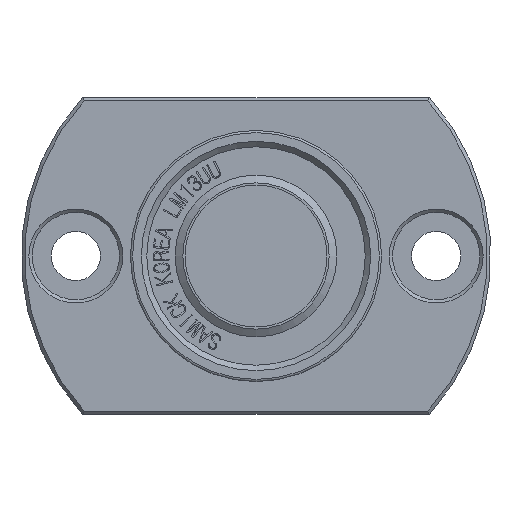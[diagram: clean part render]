
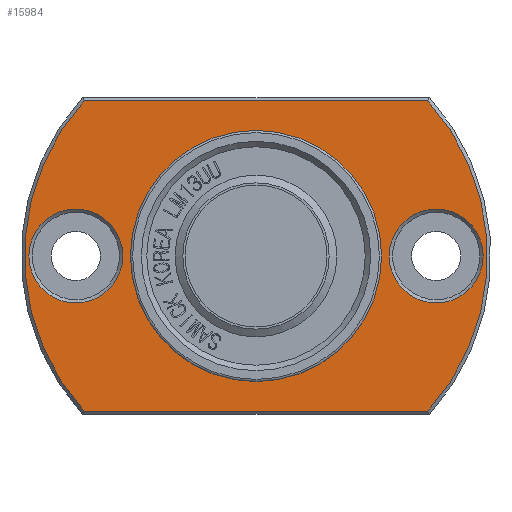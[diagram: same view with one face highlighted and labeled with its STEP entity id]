
A CAD part, front view. The second image highlights one B-rep face of the part: STEP entity #15984.
In plain terms, the highlighted planar face has unit normal (0, -1, 0).
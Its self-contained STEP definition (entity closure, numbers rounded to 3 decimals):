
#2657=FACE_BOUND('',#3805,.T.);
#2658=FACE_BOUND('',#3806,.T.);
#2659=FACE_BOUND('',#3807,.T.);
#2713=PLANE('',#16867);
#2944=FACE_OUTER_BOUND('',#3804,.T.);
#3804=EDGE_LOOP('',(#11124,#11125,#11126,#11127));
#3805=EDGE_LOOP('',(#11128));
#3806=EDGE_LOOP('',(#11129,#11130));
#3807=EDGE_LOOP('',(#11131));
#4720=LINE('',#18987,#5864);
#4721=LINE('',#18991,#5865);
#5864=VECTOR('',#17198,10.);
#5865=VECTOR('',#17201,10.);
#7007=CIRCLE('',#16864,4.3);
#7010=CIRCLE('',#16868,21.2);
#7011=CIRCLE('',#16869,21.2);
#7012=CIRCLE('',#16870,4.3);
#7013=CIRCLE('',#16871,11.5);
#7014=CIRCLE('',#16872,11.5);
#7073=VERTEX_POINT('',#18977);
#7076=VERTEX_POINT('',#18985);
#7077=VERTEX_POINT('',#18986);
#7078=VERTEX_POINT('',#18988);
#7079=VERTEX_POINT('',#18990);
#7080=VERTEX_POINT('',#18993);
#7081=VERTEX_POINT('',#18995);
#7082=VERTEX_POINT('',#18996);
#8693=EDGE_CURVE('',#7073,#7073,#7007,.T.);
#8697=EDGE_CURVE('',#7076,#7077,#4720,.T.);
#8698=EDGE_CURVE('',#7076,#7078,#7010,.T.);
#8699=EDGE_CURVE('',#7079,#7078,#4721,.T.);
#8700=EDGE_CURVE('',#7079,#7077,#7011,.T.);
#8701=EDGE_CURVE('',#7080,#7080,#7012,.T.);
#8702=EDGE_CURVE('',#7081,#7082,#7013,.T.);
#8703=EDGE_CURVE('',#7082,#7081,#7014,.T.);
#11124=ORIENTED_EDGE('',*,*,#8697,.F.);
#11125=ORIENTED_EDGE('',*,*,#8698,.T.);
#11126=ORIENTED_EDGE('',*,*,#8699,.F.);
#11127=ORIENTED_EDGE('',*,*,#8700,.T.);
#11128=ORIENTED_EDGE('',*,*,#8701,.F.);
#11129=ORIENTED_EDGE('',*,*,#8702,.F.);
#11130=ORIENTED_EDGE('',*,*,#8703,.F.);
#11131=ORIENTED_EDGE('',*,*,#8693,.F.);
#15984=ADVANCED_FACE('',(#2944,#2657,#2658,#2659),#2713,.T.);
#16864=AXIS2_PLACEMENT_3D('',#18978,#17189,#17190);
#16867=AXIS2_PLACEMENT_3D('',#18984,#17196,#17197);
#16868=AXIS2_PLACEMENT_3D('',#18989,#17199,#17200);
#16869=AXIS2_PLACEMENT_3D('',#18992,#17202,#17203);
#16870=AXIS2_PLACEMENT_3D('',#18994,#17204,#17205);
#16871=AXIS2_PLACEMENT_3D('',#18997,#17206,#17207);
#16872=AXIS2_PLACEMENT_3D('',#18998,#17208,#17209);
#17189=DIRECTION('center_axis',(0.,-1.,0.));
#17190=DIRECTION('ref_axis',(-1.,0.,0.));
#17196=DIRECTION('center_axis',(0.,-1.,0.));
#17197=DIRECTION('ref_axis',(0.,0.,-1.));
#17198=DIRECTION('',(-1.,0.,0.));
#17199=DIRECTION('center_axis',(0.,-1.,0.));
#17200=DIRECTION('ref_axis',(1.,0.,0.));
#17201=DIRECTION('',(1.,0.,0.));
#17202=DIRECTION('center_axis',(0.,-1.,0.));
#17203=DIRECTION('ref_axis',(1.,0.,0.));
#17204=DIRECTION('center_axis',(0.,-1.,0.));
#17205=DIRECTION('ref_axis',(-1.,0.,0.));
#17206=DIRECTION('center_axis',(0.,-1.,0.));
#17207=DIRECTION('ref_axis',(1.,0.,0.));
#17208=DIRECTION('center_axis',(0.,-1.,0.));
#17209=DIRECTION('ref_axis',(1.,0.,0.));
#18977=CARTESIAN_POINT('',(-12.2,-16.,0.));
#18978=CARTESIAN_POINT('Origin',(-16.5,-16.,0.));
#18984=CARTESIAN_POINT('Origin',(16.35,-16.,0.));
#18985=CARTESIAN_POINT('',(15.742,-16.,-14.2));
#18986=CARTESIAN_POINT('',(-15.742,-16.,-14.2));
#18987=CARTESIAN_POINT('',(20.175,-16.,-14.2));
#18988=CARTESIAN_POINT('',(15.742,-16.,14.2));
#18989=CARTESIAN_POINT('Origin',(0.,-16.,0.));
#18990=CARTESIAN_POINT('',(-15.742,-16.,14.2));
#18991=CARTESIAN_POINT('',(-3.825,-16.,14.2));
#18992=CARTESIAN_POINT('Origin',(0.,-16.,0.));
#18993=CARTESIAN_POINT('',(20.8,-16.,0.));
#18994=CARTESIAN_POINT('Origin',(16.5,-16.,0.));
#18995=CARTESIAN_POINT('',(11.5,-16.,0.));
#18996=CARTESIAN_POINT('',(-11.5,-16.,0.));
#18997=CARTESIAN_POINT('Origin',(0.,-16.,0.));
#18998=CARTESIAN_POINT('Origin',(0.,-16.,0.));
